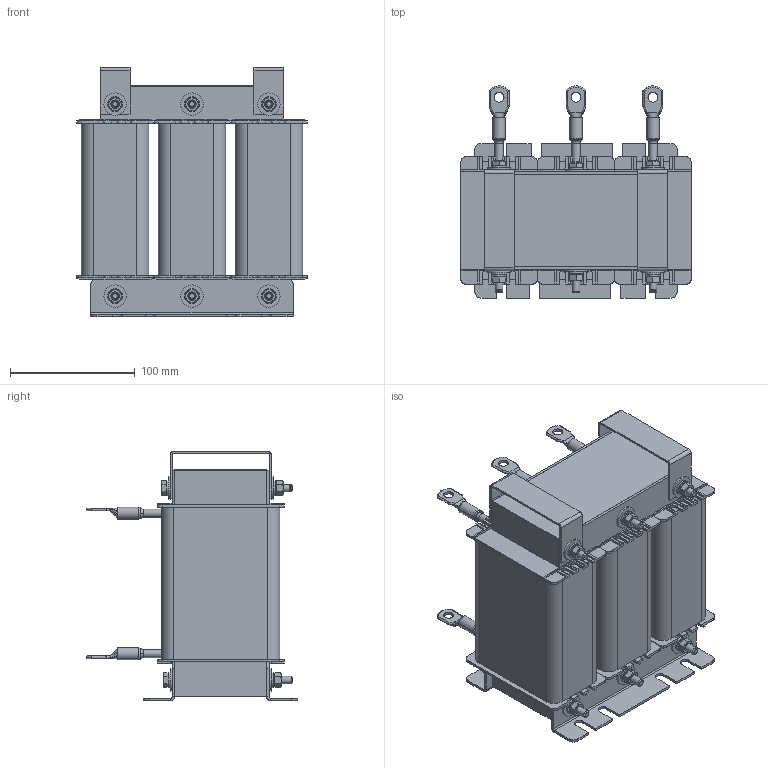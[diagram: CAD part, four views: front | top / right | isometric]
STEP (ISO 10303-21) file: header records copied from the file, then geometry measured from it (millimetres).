
FILE_DESCRIPTION(('STEP AP203'), '1');
FILE_NAME('Ñåòåâîé äðîññåëü _ ISF-55_113-4', '', ('UNSPECIFIED'), ('UNSPECIFIED'), 'C3D Converter', 'C3D Toolkit', '');
FILE_SCHEMA(('CONFIG_CONTROL_DESIGN'));
Length unit declared in the file: millimetre
Products named in the file (17): ISF-55_113-4; DIN 125 (A); ГОСТ 15591-70; DIN 127 (A); DIN 934
Assembly tree (68 placements, depth 3):
  ISF-55_113-4
    ISF-55_113-4
    ISF-55_113-4  x2
    ISF-55_113-4  x6
    ISF-55_113-4  x3
    ISF-55_113-4  x2
    (unnamed)  x12
      (unnamed)
    DIN 125 (A)  x12
      (unnamed)
    ГОСТ 15591-70  x6
    DIN 127 (A)  x6
      (unnamed)
    DIN 934  x6
      (unnamed)
    ISF-55_113-4  x2
    (unnamed)  x6
Bounding box: 185 x 169.97 x 200 mm (x, y, z)
Volume: 2620753.3 mm3; surface area: 531188.2 mm2
Topology: 71 solids, 71 shells, 1360 faces, 3342 edges, 2100 vertices
Faces by surface type: plane 884, cylinder 260, cone 102, bspline 84, torus 30
Full cylindrical faces by diameter (mm): 4.917 x6, 6 x37, 6.4 x24, 6.6 x9, 8 x12, 8.8 x6, 9.8 x6, 12 x12, 18 x12
Entity records: 13880 total; most frequent: CARTESIAN_POINT 4206, DIRECTION 1495, ORIENTED_EDGE 1398, EDGE_CURVE 699, AXIS2_PLACEMENT_3D 520, VERTEX_POINT 470, LINE 455, VECTOR 455
